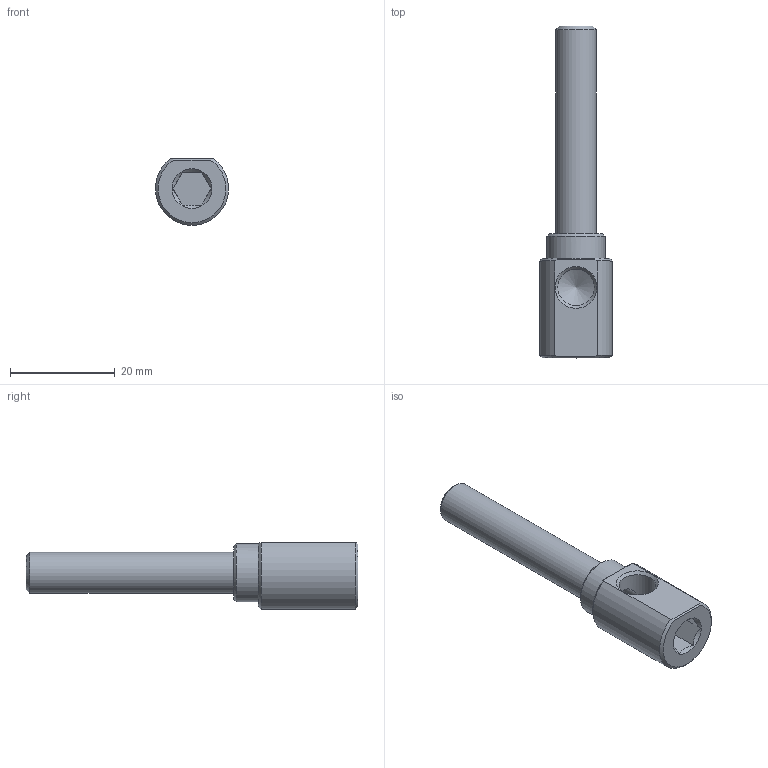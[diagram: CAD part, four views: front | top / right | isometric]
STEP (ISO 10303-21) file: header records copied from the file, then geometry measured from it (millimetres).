
FILE_DESCRIPTION(/* description */ (''),/* implementation_level */ '2;1');
FILE_NAME(/* name */ 'C:/Users/drich/Desktop/EKL16 X 2.5 v2.step',/* time_stamp */ '2019-11-18T14:36:07-06:00',/* author */ (''),/* organization */ (''),/* preprocessor_version */ 'ST-DEVELOPER v18',/* originating_system */ 'Autodesk Translation Framework v8.12.0.6',/* authorisation */ '');
FILE_SCHEMA (('AUTOMOTIVE_DESIGN { 1 0 10303 214 3 1 1 }'));
Length unit declared in the file: inch
Products named in the file (2): EKL16 X 2.5; EKL16 X 2-1/2
Assembly tree (1 placements, depth 2):
  EKL16 X 2.5
    EKL16 X 2-1/2
Bounding box: 13.97 x 63.5 x 12.7 mm (x, y, z)
Volume: 3617 mm3; surface area: 3292.7 mm2
Topology: 1 solids, 1 shells, 29 faces, 78 edges, 54 vertices
Faces by surface type: plane 15, cone 8, cylinder 6
Full cylindrical faces by diameter (mm): 4.75 x1, 7.023 x1, 7.62 x1, 7.828 x1, 11.1 x1
Entity records: 996 total; most frequent: CARTESIAN_POINT 237, ORIENTED_EDGE 154, DIRECTION 144, EDGE_CURVE 77, AXIS2_PLACEMENT_3D 57, VERTEX_POINT 54, EDGE_LOOP 35, LINE 30
